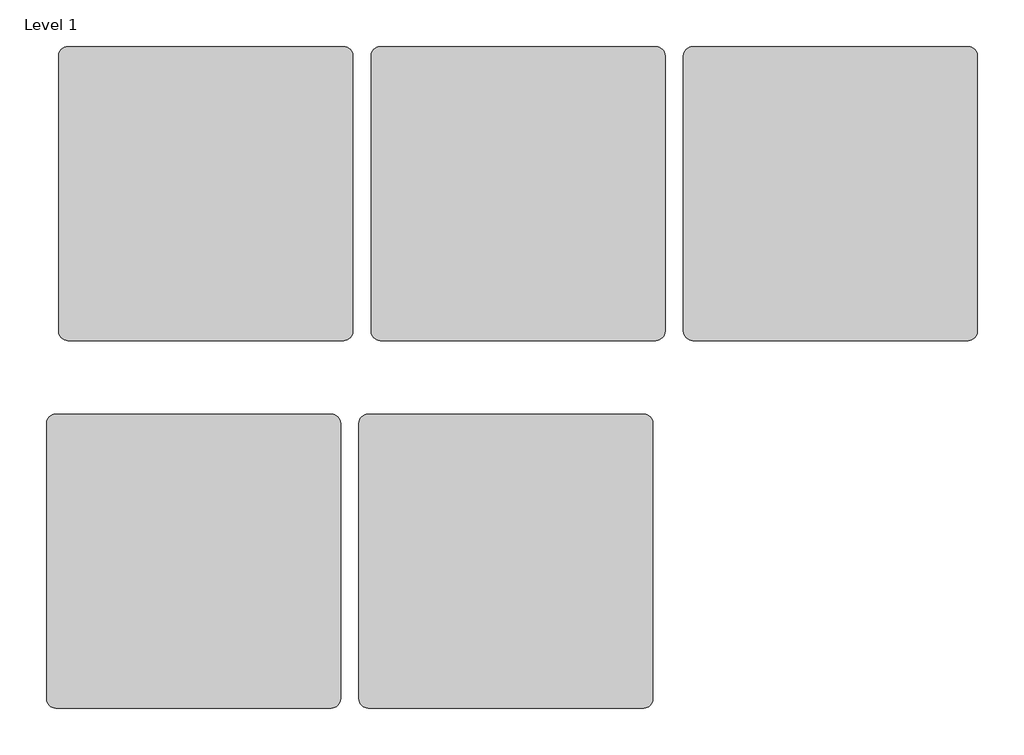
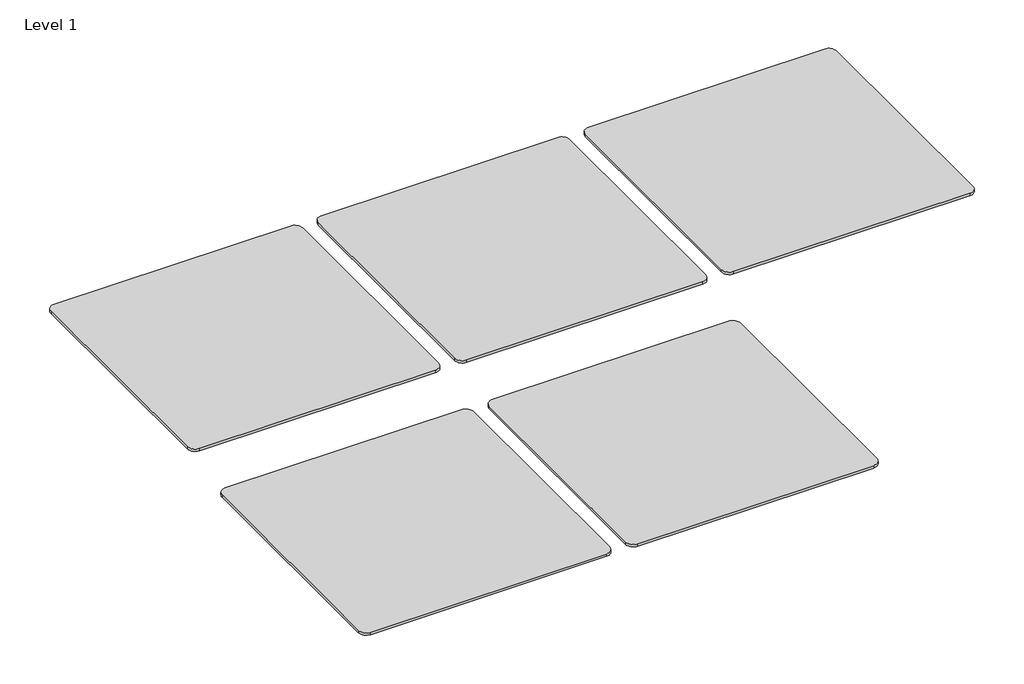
# One storey: 5 proxies.
"""IFC4 building model written with IfcOpenShell, lengths in millimetres."""

from ifc_helpers import new_model, si_unit, origin, place, context, project, spatial, transform, mapped, element, save
from components import materialsample_type_1_aebe469f

model = new_model("IFC4")

# Units and contexts
model_context = context("Model", 3, world=origin())
ifc_project = project(units=[si_unit("LENGTHUNIT", "METRE", prefix="MILLI")], contexts=[model_context])

# Site, building, storey
site = spatial("IfcSite", under=ifc_project)
building = spatial("IfcBuilding", under=site)
storey = spatial("IfcBuildingStorey", under=building, Name="Level 1", Elevation=0.0)

# Proxies
placement = place(None, origin())
materialsample_type_1_shape = materialsample_type_1_aebe469f(model_context)
element("IfcBuildingElementProxy", 1, Name="MaterialSample : Type 1", ObjectType="MaterialSample : Type 1", at=placement, inside=storey, context=model_context, shape_type="MappedRepresentation", body=[
    mapped(materialsample_type_1_shape, transform((2794.7992872, -3048.0, 0.0), x_axis=(1.0, 0.0, 0.0), y_axis=(0.0, 1.0, 0.0), z_axis=(0.0, 0.0, 1.0))),
])
element("IfcBuildingElementProxy", 2, Name="MaterialSample : Type 1", ObjectType="MaterialSample : Type 1", at=placement, inside=storey, context=model_context, shape_type="MappedRepresentation", body=[
    mapped(materialsample_type_1_shape, transform((304.8, 0.0, 0.0), x_axis=(1.0, 0.0, 0.0), y_axis=(0.0, 1.0, 0.0), z_axis=(0.0, 0.0, 1.0))),
])
element("IfcBuildingElementProxy", 3, Name="MaterialSample : Type 1", ObjectType="MaterialSample : Type 1", at=placement, inside=storey, context=model_context, shape_type="MappedRepresentation", body=[
    mapped(materialsample_type_1_shape, transform((2895.6, 0.0, 0.0), x_axis=(1.0, 0.0, 0.0), y_axis=(0.0, 1.0, 0.0), z_axis=(0.0, 0.0, 1.0))),
])
element("IfcBuildingElementProxy", 4, Name="MaterialSample : Type 1", ObjectType="MaterialSample : Type 1", at=placement, inside=storey, context=model_context, shape_type="MappedRepresentation", body=[
    mapped(materialsample_type_1_shape, transform((203.9992872, -3048.0, 0.0), x_axis=(1.0, 0.0, 0.0), y_axis=(0.0, 1.0, 0.0), z_axis=(0.0, 0.0, 1.0))),
])
element("IfcBuildingElementProxy", 5, Name="MaterialSample : Type 1", ObjectType="MaterialSample : Type 1", at=placement, inside=storey, context=model_context, shape_type="MappedRepresentation", body=[
    mapped(materialsample_type_1_shape, transform((5486.4, 0.0, 0.0), x_axis=(1.0, 0.0, 0.0), y_axis=(0.0, 1.0, 0.0), z_axis=(0.0, 0.0, 1.0))),
])

save(model, "model.ifc")
